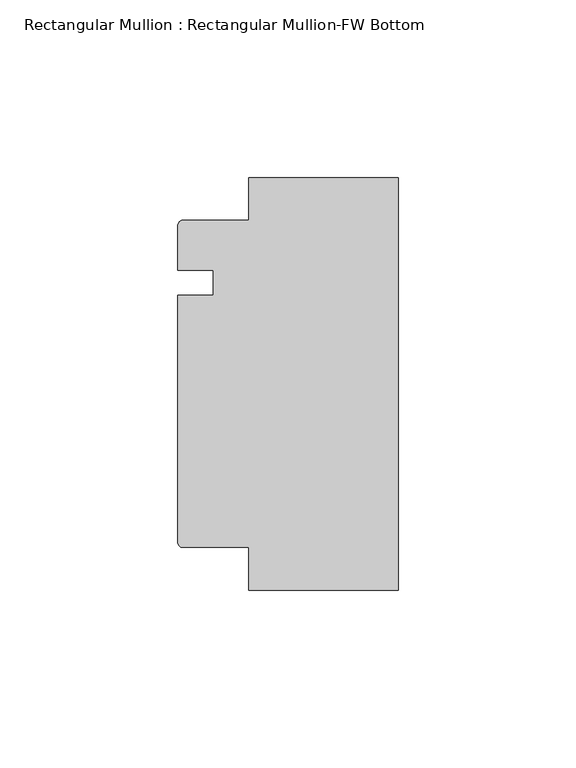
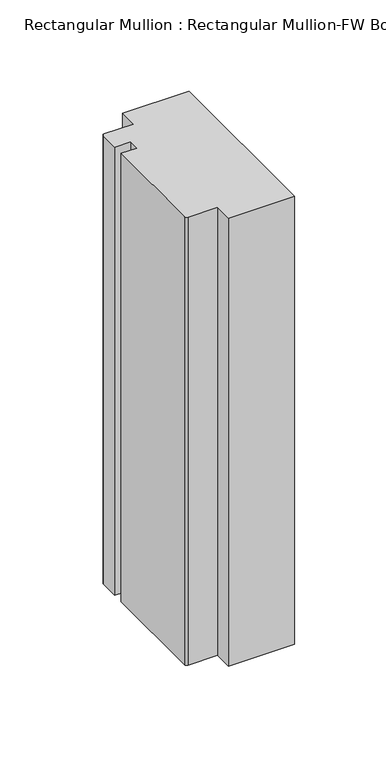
"""IFC4 building model written with IfcOpenShell, lengths in millimetres: member geometry, Rectangular Mullion : Rectangular Mullion-FW Bottom."""

import ifcopenshell
import ifcopenshell.guid

model = None  # the IFC model being written
_history = None  # IfcOwnerHistory: only IFC2X3 demands one
_inside = {}  # id of a spatial element -> (the spatial element, [elements in it])
_under = {}  # id of a project, library or spatial element -> (it, [spatial elements below it])
_declared = {}  # id of a project -> (the project, [libraries it declares])
_typed = {}  # id of a type object -> (the type object, [elements of that type])
_made_of = {}  # id of a material, layer set ... -> (it, [elements and type objects made of it])


def new_model(schema):
    """Start an empty IFC model of exactly this schema.

    Asked for "IFC4X3", IfcOpenShell would pick the latest addendum, in which some entities
    have other attributes; the version numbers below select the first issue.
    IFC2X3 requires an IfcOwnerHistory on every rooted entity: one is made here for all.
    """
    global model, _history
    if schema == "IFC4X3":
        model = ifcopenshell.file(schema_version=(4, 3, 0, 0))
    else:
        model = ifcopenshell.file(schema=schema)
    _inside.clear()
    _under.clear()
    _declared.clear()
    _typed.clear()
    _made_of.clear()
    _history = None
    if model.schema == "IFC2X3":
        org = make("IfcOrganization", Name="unknown")
        user = make(
            "IfcPersonAndOrganization",
            ThePerson=make("IfcPerson", FamilyName="unknown"),
            TheOrganization=org,
        )
        app = make(
            "IfcApplication",
            ApplicationDeveloper=org,
            Version="unknown",
            ApplicationFullName="unknown",
            ApplicationIdentifier="unknown",
        )
        _history = make(
            "IfcOwnerHistory",
            OwningUser=user,
            OwningApplication=app,
            ChangeAction="ADDED",
            CreationDate=0,
        )
    return model


def make(cls, **values):
    """One entity of the class cls with the attributes given. An attribute that is None is left unset."""
    return model.create_entity(
        cls, **{name: value for name, value in values.items() if value is not None}
    )


def rooted(cls, **values):
    """An entity with a GlobalId (a new one), such as an element, a storey or a relation."""
    return make(cls, GlobalId=ifcopenshell.guid.new(), OwnerHistory=_history, **values)


def si_unit(unit_type, name, prefix=None):
    """IfcSIUnit, for example si_unit("LENGTHUNIT", "METRE", prefix="MILLI")."""
    return make("IfcSIUnit", UnitType=unit_type, Prefix=prefix, Name=name)


def assignment(units):
    """IfcUnitAssignment: the units of a project."""
    return None if units is None else make("IfcUnitAssignment", Units=units)


def point(xyz):
    """IfcCartesianPoint."""
    return None if xyz is None else make("IfcCartesianPoint", Coordinates=xyz)


def direction(xyz):
    """IfcDirection."""
    return None if xyz is None else make("IfcDirection", DirectionRatios=xyz)


def frame(location, z_axis=None, x_axis=None):
    """IfcAxis2Placement3D, a coordinate frame: its origin and axes. An axis left out is left unset."""
    return make(
        "IfcAxis2Placement3D",
        Location=point(location),
        Axis=direction(z_axis),
        RefDirection=direction(x_axis),
    )


def frame_2d(location, x_axis=None):
    """IfcAxis2Placement2D, a coordinate frame in the plane: its origin and x axis."""
    return make(
        "IfcAxis2Placement2D", Location=point(location), RefDirection=direction(x_axis)
    )


def origin():
    """The frame at (0, 0, 0) with its axes left unset."""
    return frame((0.0, 0.0, 0.0))


def place(relative_to, where):
    """IfcLocalPlacement: puts the frame where relative to a parent placement (None: the world)."""
    return make(
        "IfcLocalPlacement", PlacementRelTo=relative_to, RelativePlacement=where
    )


def context(
    kind, dimensions, precision=None, world=None, true_north=None, identifier=None
):
    """IfcGeometricRepresentationContext, for example the 3D "Model" context."""
    return make(
        "IfcGeometricRepresentationContext",
        ContextIdentifier=identifier,
        ContextType=kind,
        CoordinateSpaceDimension=dimensions,
        Precision=precision,
        WorldCoordinateSystem=world,
        TrueNorth=true_north,
    )


def project(units=None, contexts=None):
    """IfcProject with its units and contexts."""
    return rooted(
        "IfcProject",
        Name="project",
        RepresentationContexts=contexts,
        UnitsInContext=assignment(units),
    )


def spatial(cls, under=None, at=None, **own):
    """A site, building, storey or space (cls), placed at a placement, below another one or the project."""
    s = rooted(cls, ObjectPlacement=at, **own)
    if under is not None:
        _under.setdefault(under.id(), (under, []))[1].append(s)
    return s


def polyline(points):
    """IfcPolyline through the points."""
    return make("IfcPolyline", Points=[point(p) for p in points])


def circle_curve(where, radius):
    """IfcCircle in the frame where."""
    return make("IfcCircle", Position=where, Radius=radius)


def trimmed(basis, trim1, trim2, sense, master):
    """IfcTrimmedCurve: the piece of a basis curve between two trims."""
    return make(
        "IfcTrimmedCurve",
        BasisCurve=basis,
        Trim1=trim1,
        Trim2=trim2,
        SenseAgreement=sense,
        MasterRepresentation=master,
    )


def segment(curve, same_sense, transition):
    """IfcCompositeCurveSegment."""
    return make(
        "IfcCompositeCurveSegment",
        Transition=transition,
        SameSense=same_sense,
        ParentCurve=curve,
    )


def composite_curve(segments, self_intersect=None):
    """IfcCompositeCurve: segments joined end to end."""
    return make("IfcCompositeCurve", Segments=segments, SelfIntersect=self_intersect)


def outline(outer, holes=None, kind="AREA"):
    """IfcArbitraryClosedProfileDef: a profile drawn as a closed curve; with holes, ...WithVoids."""
    if holes is None:
        return make("IfcArbitraryClosedProfileDef", ProfileType=kind, OuterCurve=outer)
    return make(
        "IfcArbitraryProfileDefWithVoids",
        ProfileType=kind,
        OuterCurve=outer,
        InnerCurves=holes,
    )


def extrude(swept, where, along, depth):
    """IfcExtrudedAreaSolid: the profile swept, set in the frame where, extruded along a direction by depth."""
    return make(
        "IfcExtrudedAreaSolid",
        SweptArea=swept,
        Position=where,
        ExtrudedDirection=direction(along),
        Depth=depth,
    )


def shape(context_of_items, identifier, shape_type, items):
    """IfcShapeRepresentation: the items that make up one representation, for example the "Body"."""
    return make(
        "IfcShapeRepresentation",
        ContextOfItems=context_of_items,
        RepresentationIdentifier=identifier,
        RepresentationType=shape_type,
        Items=items,
    )


def source(mapping_origin, context_of_items, identifier, shape_type, items):
    """IfcRepresentationMap: a shape defined once, which mapped items show again and again."""
    return make(
        "IfcRepresentationMap",
        MappingOrigin=mapping_origin,
        MappedRepresentation=shape(context_of_items, identifier, shape_type, items),
    )


def transform(
    local_origin,
    x_axis=None,
    y_axis=None,
    z_axis=None,
    scale=None,
    scale2=None,
    scale3=None,
    uniform=True,
):
    """IfcCartesianTransformationOperator3D, or its non-uniform kind. x_axis, y_axis, z_axis: its Axis1, 2, 3."""
    if uniform:
        return make(
            "IfcCartesianTransformationOperator3D",
            Axis1=direction(x_axis),
            Axis2=direction(y_axis),
            LocalOrigin=point(local_origin),
            Scale=scale,
            Axis3=direction(z_axis),
        )
    return make(
        "IfcCartesianTransformationOperator3DnonUniform",
        Axis1=direction(x_axis),
        Axis2=direction(y_axis),
        LocalOrigin=point(local_origin),
        Scale=scale,
        Axis3=direction(z_axis),
        Scale2=scale2,
        Scale3=scale3,
    )


def mapped(mapping_source, mapping_target):
    """IfcMappedItem: shows the shape of a source again, moved by a transform."""
    return make(
        "IfcMappedItem", MappingSource=mapping_source, MappingTarget=mapping_target
    )


def made_of(thing, what):
    """Note that an element or type object is made of a material, layer set ...; save() writes the relation."""
    if what is not None:
        _made_of.setdefault(what.id(), (what, []))[1].append(thing)
    return thing


def element(
    cls,
    number,
    at=None,
    inside=None,
    cuts=None,
    type_object=None,
    material=None,
    context=None,
    identifier="Body",
    shape_type=None,
    held_by="IfcProductDefinitionShape",
    body=None,
    shapes=None,
    **own,
):
    """One element of the class cls, such as IfcWall. Its Tag is "e" and its number.

    at: its placement. inside: the storey or other place that contains it. cuts: it is an
    opening in that element (IfcRelVoidsElement). A single representation is given by context,
    identifier, shape_type and body (its items); several are given by shapes. held_by: the class
    of the entity that holds the representations. save() writes the other relations.
    """
    e = rooted(cls, Tag="e%d" % number, ObjectPlacement=at, **own)
    if body is not None:
        shapes = [shape(context, identifier, shape_type, body)]
    if shapes is not None:
        e.Representation = make(held_by, Representations=shapes)
    if inside is not None:
        _inside.setdefault(inside.id(), (inside, []))[1].append(e)
    if cuts is not None:
        rooted(
            "IfcRelVoidsElement", RelatingBuildingElement=cuts, RelatedOpeningElement=e
        )
    if type_object is not None:
        _typed.setdefault(type_object.id(), (type_object, []))[1].append(e)
    return made_of(e, material)


def aggregate(whole, parts):
    """IfcRelAggregates: a whole, such as a stair, and the parts it consists of."""
    return rooted("IfcRelAggregates", RelatingObject=whole, RelatedObjects=parts)


def save(model, path):
    """Write the relations noted so far, then the file.

    IfcRelAggregates (storeys below a building ...), IfcRelContainedInSpatialStructure (elements
    in a storey), IfcRelDefinesByType, IfcRelAssociatesMaterial and IfcRelDeclares: one each for
    every whole, place, type object, material and project.
    """
    for whole, parts in _under.values():
        aggregate(whole, parts)
    for where, things in _inside.values():
        rooted(
            "IfcRelContainedInSpatialStructure",
            RelatedElements=things,
            RelatingStructure=where,
        )
    for kind, things in _typed.values():
        rooted("IfcRelDefinesByType", RelatedObjects=things, RelatingType=kind)
    for what, things in _made_of.values():
        rooted("IfcRelAssociatesMaterial", RelatedObjects=things, RelatingMaterial=what)
    for by, libraries in _declared.values():
        rooted("IfcRelDeclares", RelatingContext=by, RelatedDefinitions=libraries)
    model.write(path)


def rectangular_mullion_rectangular_mullion_fw_bottom_7ba08840(model_context):
    return source(origin(), model_context, "Body", "SweptSolid", [
        extrude(outline(composite_curve([segment(polyline([(-60.5201031, 0.0), (-42.0, 0.0), (-42.0, 12.0), (0.0, 12.0), (0.0, -104.0), (-42.0, -104.0), (-42.0, -92.0), (-60.5201031, -92.0)]), True, "CONTINUOUS"), segment(trimmed(circle_curve(frame_2d((-60.5201031, -90.5201031)), 1.4798969), [point((-60.5201031, -92.0))], [point((-62.0, -90.5201031))], False, "CARTESIAN"), True, "CONTINUOUS"), segment(polyline([(-62.0, -90.5201031), (-62.0, -21.0), (-52.0, -21.0), (-52.0, -14.0), (-62.0, -14.0), (-62.0, -1.4798969)]), True, "CONTINUOUS"), segment(trimmed(circle_curve(frame_2d((-60.5201031, -1.4798969)), 1.4798969), [point((-62.0, -1.4798969))], [point((-60.5201031, 0.0))], False, "CARTESIAN"), True, "CONTINUOUS")], self_intersect=False)), frame((0.0, 0.0, -300.0), z_axis=(0.0, 0.0, 1.0), x_axis=(1.0, 0.0, 0.0)), (0.0, 0.0, 1.0), 300.0),
    ])


if __name__ == "__main__":
    model = new_model("IFC4")
    model_context = context("Model", 3, world=origin())
    ifc_project = project(units=[si_unit("LENGTHUNIT", "METRE", prefix="MILLI")], contexts=[model_context])
    site = spatial("IfcSite", under=ifc_project)
    building = spatial("IfcBuilding", under=site)
    placement = place(None, origin())
    rectangular_mullion_rectangular_mullion_fw_bottom_shape = rectangular_mullion_rectangular_mullion_fw_bottom_7ba08840(model_context)
    element("IfcMember", 1, ObjectType="Rectangular Mullion : Rectangular Mullion-FW Bottom", at=placement, inside=building, context=model_context, shape_type="MappedRepresentation", body=[
        mapped(rectangular_mullion_rectangular_mullion_fw_bottom_shape, transform((0.0, 0.0, 0.0), x_axis=(1.0, 0.0, 0.0), y_axis=(0.0, 1.0, 0.0), z_axis=(0.0, 0.0, 1.0))),
    ])
    save(model, "model.ifc")
